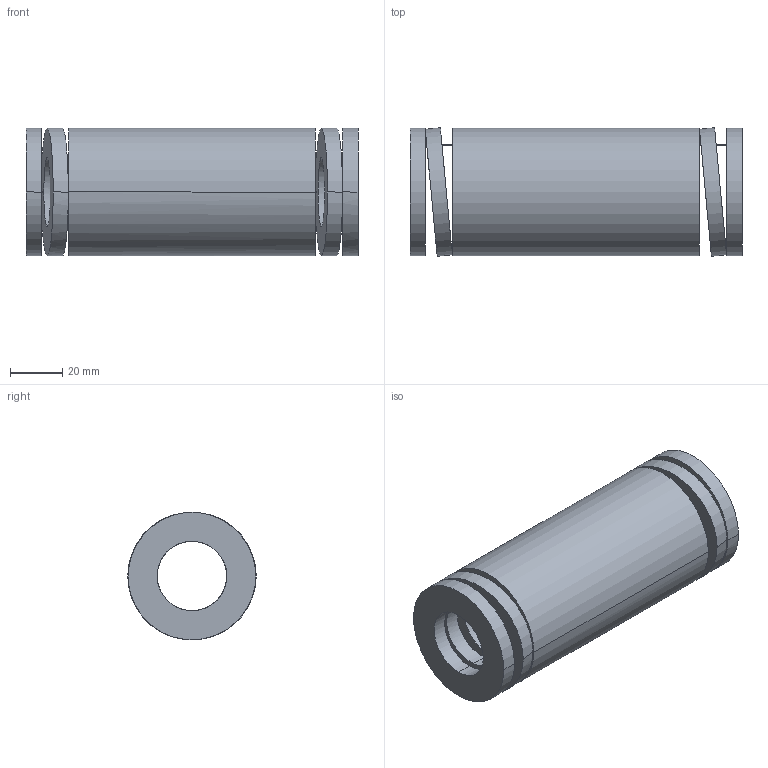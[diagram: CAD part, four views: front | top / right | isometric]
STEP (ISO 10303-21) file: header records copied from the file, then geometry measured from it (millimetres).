
FILE_DESCRIPTION(('CATIA V5 STEP Exchange'),'2;1');
FILE_NAME('C:\Users\Utente\Desktop\IO LAVORO\3D X SITO CF\X SITO\3D files 392B\392-B50-127.stp','2021-08-13T11:28:40+00:00',('none'),('none'),'CATIA Version 5 Release 20 GA (IN-10)','CATIA V5 STEP AP203','none');
FILE_SCHEMA(('CONFIG_CONTROL_DESIGN'));
Length unit declared in the file: millimetre
Products named in the file (1): 392-B50-127
Bounding box: 127 x 49.13 x 48.8 mm (x, y, z)
Volume: 154600.1 mm3; surface area: 41007.7 mm2
Topology: 1 solids, 1 shells, 38 faces, 92 edges, 64 vertices
Faces by surface type: cylinder 28, plane 10
Entity records: 1614 total; most frequent: CARTESIAN_POINT 733, ORIENTED_EDGE 184, DIRECTION 125, EDGE_CURVE 92, VERTEX_POINT 64, AXIS2_PLACEMENT_3D 60, EDGE_LOOP 56, B_SPLINE_CURVE_WITH_KNOTS 43
